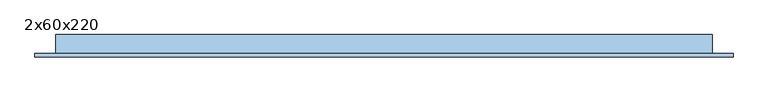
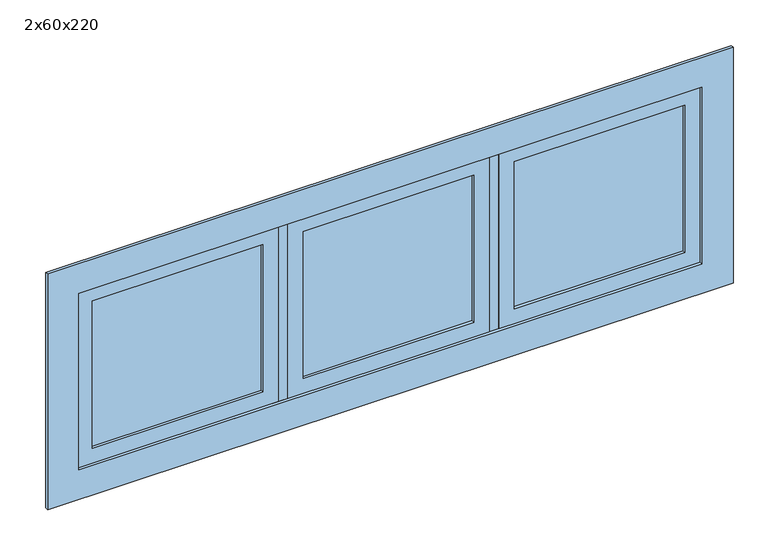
"""IFC4 building model written with IfcOpenShell, lengths in millimetres: window geometry, JANELA COM ESQUADRIA MAXIM-AR - 3 FOLHAS : 2x60x220."""

from ifc_helpers import new_model, si_unit, frame, origin, place, context, project, spatial, polyline, outline, extrude, source, transform, mapped, element, save


def window_2x60x220_e9b3d189(model_context):
    return source(origin(), model_context, "Body", "SweptSolid", [
        extrude(outline(polyline([(-143.9297824, -0.3758395), (402.7368843, -0.3758395), (402.7368843, -6.3758395), (-143.9297824, -6.3758395), (-143.9297824, -0.3758395)])), frame((0.0, 0.0, 1550.0), z_axis=(0.0, 0.0, 1.0), x_axis=(1.0, 0.0, 0.0)), (0.0, 0.0, 1.0), 500.0),
        extrude(outline(polyline([(2100.0, -193.9297824), (1500.0, -193.9297824), (1500.0, 452.7368843), (2100.0, 452.7368843), (2100.0, -193.9297824)]), holes=[polyline([(2050.0, -143.9297824), (2050.0, 402.7368843), (1550.0, 402.7368843), (1550.0, -143.9297824), (2050.0, -143.9297824)])]), frame((0.0, -15.8758395, 0.0), z_axis=(0.0, 1.0, 0.0), x_axis=(0.0, 0.0, 1.0)), (0.0, 0.0, 1.0), 25.0),
        extrude(outline(polyline([(532.7368843, -0.3758395), (1079.4035509, -0.3758395), (1079.4035509, -6.3758395), (532.7368843, -6.3758395), (532.7368843, -0.3758395)])), frame((0.0, 0.0, 1550.0), z_axis=(0.0, 0.0, 1.0), x_axis=(1.0, 0.0, 0.0)), (0.0, 0.0, 1.0), 500.0),
        extrude(outline(polyline([(2100.0, 482.7368843), (1500.0, 482.7368843), (1500.0, 1129.4035509), (2100.0, 1129.4035509), (2100.0, 482.7368843)]), holes=[polyline([(2050.0, 532.7368843), (2050.0, 1079.4035509), (1550.0, 1079.4035509), (1550.0, 532.7368843), (2050.0, 532.7368843)])]), frame((0.0, -15.8758395, 0.0), z_axis=(0.0, 1.0, 0.0), x_axis=(0.0, 0.0, 1.0)), (0.0, 0.0, 1.0), 25.0),
        extrude(outline(polyline([(-820.5964491, -0.3758395), (-273.9297824, -0.3758395), (-273.9297824, -6.3758395), (-820.5964491, -6.3758395), (-820.5964491, -0.3758395)])), frame((0.0, 0.0, 1550.0), z_axis=(0.0, 0.0, 1.0), x_axis=(1.0, 0.0, 0.0)), (0.0, 0.0, 1.0), 500.0),
        extrude(outline(polyline([(2100.0, -870.5964491), (1500.0, -870.5964491), (1500.0, -223.9297824), (2100.0, -223.9297824), (2100.0, -870.5964491)]), holes=[polyline([(2050.0, -820.5964491), (2050.0, -273.9297824), (1550.0, -273.9297824), (1550.0, -820.5964491), (2050.0, -820.5964491)])]), frame((0.0, -15.8758395, 0.0), z_axis=(0.0, 1.0, 0.0), x_axis=(0.0, 0.0, 1.0)), (0.0, 0.0, 1.0), 25.0),
        extrude(outline(polyline([(1400.0, -970.5964491), (1400.0, 1229.4035509), (2200.0, 1229.4035509), (2200.0, -970.5964491), (1400.0, -970.5964491)]), holes=[polyline([(2100.0, -870.5964491), (2100.0, 1129.4035509), (1500.0, 1129.4035509), (1500.0, -870.5964491), (2100.0, -870.5964491)])]), frame((0.0, -25.8758395, 0.0), z_axis=(0.0, 1.0, 0.0), x_axis=(0.0, 0.0, 1.0)), (0.0, 0.0, 1.0), 10.0),
        extrude(outline(polyline([(452.7368843, -15.8758395), (452.7368843, 44.1241605), (482.7368843, 44.1241605), (482.7368843, -15.8758395), (452.7368843, -15.8758395)])), frame((0.0, 0.0, 1500.0), z_axis=(0.0, 0.0, 1.0), x_axis=(1.0, 0.0, 0.0)), (0.0, 0.0, 1.0), 600.0),
        extrude(outline(polyline([(-223.9297824, -15.8758395), (-223.9297824, 44.1241605), (-193.9297824, 44.1241605), (-193.9297824, -15.8758395), (-223.9297824, -15.8758395)])), frame((0.0, 0.0, 1500.0), z_axis=(0.0, 0.0, 1.0), x_axis=(1.0, 0.0, 0.0)), (0.0, 0.0, 1.0), 600.0),
        extrude(outline(polyline([(-905.5964491, 44.1241605), (-870.5964491, 44.1241605), (-870.5964491, -15.8758395), (-905.5964491, -15.8758395), (-905.5964491, 44.1241605)])), frame((0.0, 0.0, 1500.0), z_axis=(0.0, 0.0, 1.0), x_axis=(1.0, 0.0, 0.0)), (0.0, 0.0, 1.0), 600.0),
        extrude(outline(polyline([(1129.4035509, 44.1241605), (1164.4035509, 44.1241605), (1164.4035509, -15.8758395), (1129.4035509, -15.8758395), (1129.4035509, 44.1241605)])), frame((0.0, 0.0, 1500.0), z_axis=(0.0, 0.0, 1.0), x_axis=(1.0, 0.0, 0.0)), (0.0, 0.0, 1.0), 600.0),
        extrude(outline(polyline([(-905.5964491, 44.1241605), (1164.4035509, 44.1241605), (1164.4035509, -15.8758395), (-905.5964491, -15.8758395), (-905.5964491, 44.1241605)])), frame((0.0, 0.0, 1465.0), z_axis=(0.0, 0.0, 1.0), x_axis=(1.0, 0.0, 0.0)), (0.0, 0.0, 1.0), 35.0),
        extrude(outline(polyline([(-905.5964491, 44.1241605), (1164.4035509, 44.1241605), (1164.4035509, -15.8758395), (-905.5964491, -15.8758395), (-905.5964491, 44.1241605)])), frame((0.0, 0.0, 2100.0), z_axis=(0.0, 0.0, 1.0), x_axis=(1.0, 0.0, 0.0)), (0.0, 0.0, 1.0), 35.0),
    ])


if __name__ == "__main__":
    model = new_model("IFC4")
    model_context = context("Model", 3, world=origin())
    ifc_project = project(units=[si_unit("LENGTHUNIT", "METRE", prefix="MILLI")], contexts=[model_context])
    site = spatial("IfcSite", under=ifc_project)
    building = spatial("IfcBuilding", under=site)
    placement = place(None, origin())
    window_2x60x220_shape = window_2x60x220_e9b3d189(model_context)
    element("IfcWindow", 1, ObjectType="JANELA COM ESQUADRIA MAXIM-AR - 3 FOLHAS : 2x60x220", at=placement, inside=building, context=model_context, shape_type="MappedRepresentation", body=[
        mapped(window_2x60x220_shape, transform((0.0, 0.0, 0.0), x_axis=(1.0, 0.0, 0.0), y_axis=(0.0, 1.0, 0.0), z_axis=(0.0, 0.0, 1.0))),
    ])
    save(model, "model.ifc")
